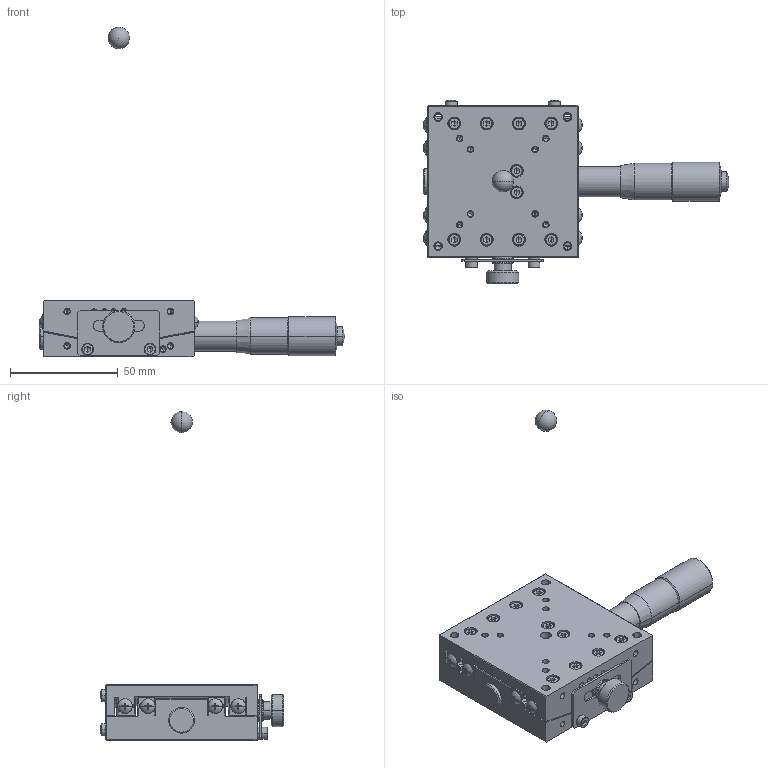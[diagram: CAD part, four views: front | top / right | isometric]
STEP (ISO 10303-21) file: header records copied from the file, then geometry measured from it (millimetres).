
FILE_DESCRIPTION (( 'STEP AP214' ), '1' );
FILE_NAME ('ST07A-C1B-R.STEP', '2007-01-19T02:24:05', ( ' ' ), ( ' ' ), 'SwSTEP 2.0', 'SolidWorks 2006052', '' );
FILE_SCHEMA (( 'AUTOMOTIVE_DESIGN' ));
Length unit declared in the file: millimetre
Products named in the file (6): MICROMETERHEAD(MHN4-25T)spindle-5; ST07A-C1B-R-Part-1; 002610-1020(3D)-1; 002610-1011(3D)-1; 002590-1130(3D)-5; ST07A-C1B-R
Assembly tree (5 placements, depth 2):
  ST07A-C1B-R
    002590-1130(3D)-5
    002610-1020(3D)-1
    002610-1011(3D)-1
    ST07A-C1B-R-Part-1
    MICROMETERHEAD(MHN4-25T)spindle-5
Bounding box: 142 x 85.39 x 153 mm (x, y, z)
Volume: 124734.5 mm3; surface area: 58897 mm2
Topology: 5 solids, 51 shells, 1841 faces, 4239 edges, 2486 vertices
Faces by surface type: plane 767, cylinder 610, cone 432, sphere 32
Entity records: 54383 total; most frequent: CARTESIAN_POINT 12544, DIRECTION 9200, ORIENTED_EDGE 8228, EDGE_CURVE 4114, AXIS2_PLACEMENT_3D 3557, VERTEX_POINT 2483, LINE 2086, VECTOR 2086
